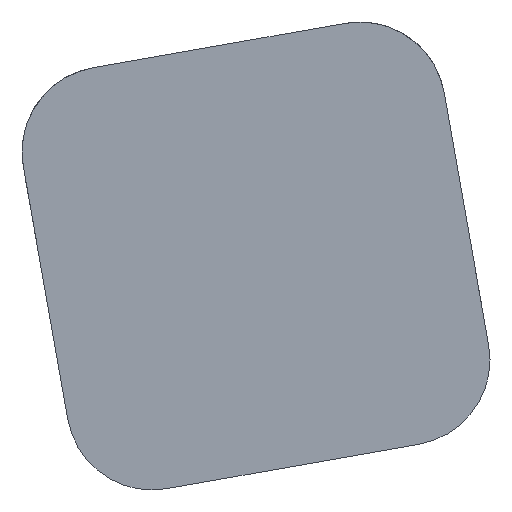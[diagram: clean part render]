
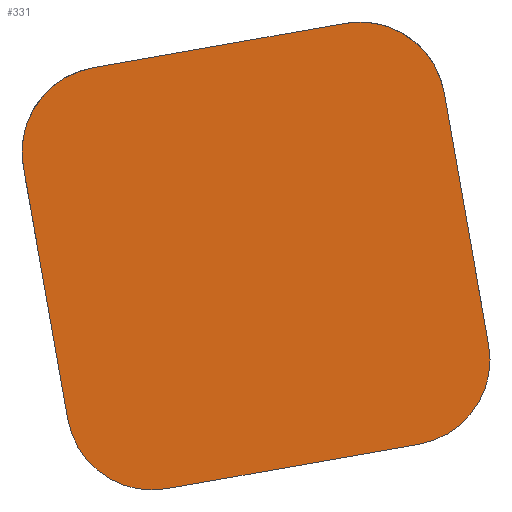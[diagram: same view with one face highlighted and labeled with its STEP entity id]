
A CAD part, front view. The second image highlights one B-rep face of the part: STEP entity #331.
In plain terms, the highlighted planar face has unit normal (0, -1, 0).
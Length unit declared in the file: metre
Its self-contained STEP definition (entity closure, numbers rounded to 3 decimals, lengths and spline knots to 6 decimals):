
#34=CIRCLE('',#359,0.002);
#36=CIRCLE('',#365,0.002);
#40=CIRCLE('',#373,0.002);
#41=CIRCLE('',#374,0.002);
#106=ORIENTED_EDGE('',*,*,#182,.T.);
#107=ORIENTED_EDGE('',*,*,#184,.T.);
#108=ORIENTED_EDGE('',*,*,#160,.F.);
#109=ORIENTED_EDGE('',*,*,#175,.T.);
#110=ORIENTED_EDGE('',*,*,#140,.F.);
#111=ORIENTED_EDGE('',*,*,#167,.T.);
#112=ORIENTED_EDGE('',*,*,#156,.T.);
#113=ORIENTED_EDGE('',*,*,#185,.T.);
#140=EDGE_CURVE('',#188,#189,#220,.T.);
#156=EDGE_CURVE('',#205,#204,#234,.T.);
#160=EDGE_CURVE('',#208,#209,#237,.T.);
#167=EDGE_CURVE('',#188,#205,#34,.T.);
#175=EDGE_CURVE('',#208,#189,#36,.T.);
#182=EDGE_CURVE('',#217,#216,#244,.T.);
#184=EDGE_CURVE('',#216,#209,#40,.T.);
#185=EDGE_CURVE('',#204,#217,#41,.T.);
#188=VERTEX_POINT('',#475);
#189=VERTEX_POINT('',#477);
#204=VERTEX_POINT('',#510);
#205=VERTEX_POINT('',#512);
#208=VERTEX_POINT('',#519);
#209=VERTEX_POINT('',#521);
#216=VERTEX_POINT('',#589);
#217=VERTEX_POINT('',#591);
#220=LINE('',#476,#248);
#234=LINE('',#511,#262);
#237=LINE('',#520,#265);
#244=LINE('',#590,#272);
#248=VECTOR('',#385,1.);
#262=VECTOR('',#409,1.);
#265=VECTOR('',#416,1.);
#272=VECTOR('',#453,1.);
#287=EDGE_LOOP('',(#106,#107,#108,#109,#110,#111,#112,#113));
#305=FACE_BOUND('',#287,.T.);
#317=PLANE('',#372);
#331=ADVANCED_FACE('',(#305),#317,.T.);
#359=AXIS2_PLACEMENT_3D('',#537,#425,#426);
#365=AXIS2_PLACEMENT_3D('',#573,#437,#438);
#372=AXIS2_PLACEMENT_3D('',#593,#455,#456);
#373=AXIS2_PLACEMENT_3D('',#594,#457,#458);
#374=AXIS2_PLACEMENT_3D('',#595,#459,#460);
#385=DIRECTION('',(0.985,0.,0.174));
#409=DIRECTION('',(0.174,0.,-0.985));
#416=DIRECTION('',(0.174,0.,-0.985));
#425=DIRECTION('',(0.,-1.,0.));
#426=DIRECTION('',(0.,0.,-1.));
#437=DIRECTION('',(0.,-1.,0.));
#438=DIRECTION('',(0.,0.,-1.));
#453=DIRECTION('',(0.985,0.,0.174));
#455=DIRECTION('',(0.,-1.,0.));
#456=DIRECTION('',(0.,0.,-1.));
#457=DIRECTION('',(0.,-1.,0.));
#458=DIRECTION('',(0.,0.,-1.));
#459=DIRECTION('',(0.,-1.,0.));
#460=DIRECTION('',(0.,0.,-1.));
#475=CARTESIAN_POINT('',(-0.354603,-0.040613,-0.006042));
#476=CARTESIAN_POINT('',(-0.356573,-0.040613,-0.006389));
#477=CARTESIAN_POINT('',(-0.348694,-0.040613,-0.005));
#510=CARTESIAN_POINT('',(-0.355183,-0.040613,-0.014267));
#511=CARTESIAN_POINT('',(-0.355704,-0.040613,-0.011313));
#512=CARTESIAN_POINT('',(-0.356225,-0.040613,-0.008359));
#519=CARTESIAN_POINT('',(-0.346377,-0.040613,-0.006622));
#520=CARTESIAN_POINT('',(-0.345856,-0.040613,-0.009577));
#521=CARTESIAN_POINT('',(-0.345335,-0.040613,-0.012531));
#537=CARTESIAN_POINT('',(-0.354256,-0.040613,-0.008011));
#573=CARTESIAN_POINT('',(-0.348347,-0.040613,-0.006969));
#589=CARTESIAN_POINT('',(-0.346958,-0.040613,-0.014848));
#590=CARTESIAN_POINT('',(-0.354836,-0.040613,-0.016237));
#591=CARTESIAN_POINT('',(-0.352866,-0.040613,-0.01589));
#593=CARTESIAN_POINT('',(-0.355704,-0.040613,-0.011313));
#594=CARTESIAN_POINT('',(-0.347305,-0.040613,-0.012878));
#595=CARTESIAN_POINT('',(-0.353214,-0.040613,-0.01392));
